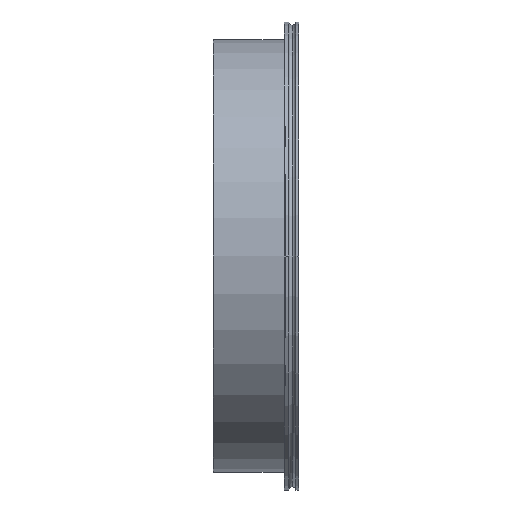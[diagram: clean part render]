
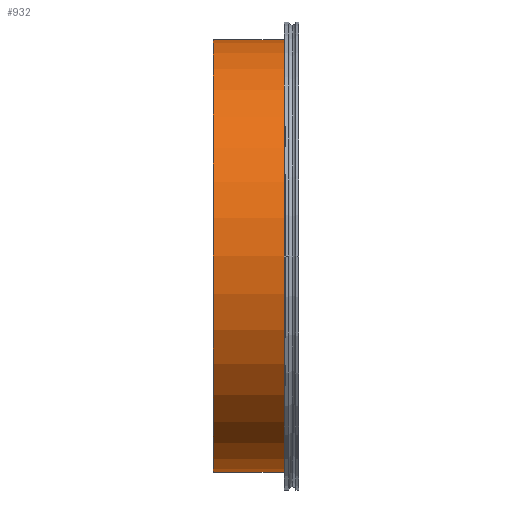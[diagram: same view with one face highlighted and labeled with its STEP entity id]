
A CAD part, front view. The second image highlights one B-rep face of the part: STEP entity #932.
In plain terms, the highlighted cylindrical face has radius 254 mm (diameter 508 mm), a partial arc.
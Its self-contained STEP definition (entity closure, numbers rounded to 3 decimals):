
#786=CARTESIAN_POINT('',(-83.,0.,-254.));
#787=VERTEX_POINT('',#786);
#788=CARTESIAN_POINT('',(8.5,0.,-254.));
#789=VERTEX_POINT('',#788);
#790=CARTESIAN_POINT('',(-83.,0.,-254.));
#791=DIRECTION('',(1.0,0.0,0.0));
#792=VECTOR('',#791,91.5);
#793=LINE('',#790,#792);
#794=EDGE_CURVE('',#787,#789,#793,.T.);
#796=CARTESIAN_POINT('',(-83.,0.,254.));
#797=VERTEX_POINT('',#796);
#805=CARTESIAN_POINT('',(8.5,0.,254.));
#806=VERTEX_POINT('',#805);
#807=CARTESIAN_POINT('',(8.5,0.,254.));
#808=DIRECTION('',(-1.0,0.0,0.0));
#809=VECTOR('',#808,91.5);
#810=LINE('',#807,#809);
#811=EDGE_CURVE('',#806,#797,#810,.T.);
#909=CARTESIAN_POINT('',(-83.,0.0,0.0));
#910=DIRECTION('',(1.0,0.0,0.0));
#911=DIRECTION('',(0.0,0.0,-1.0));
#912=AXIS2_PLACEMENT_3D('',#909,#910,#911);
#913=CYLINDRICAL_SURFACE('',#912,254.);
#914=ORIENTED_EDGE('',*,*,#794,.T.);
#915=CARTESIAN_POINT('',(8.5,0.0,0.0));
#916=DIRECTION('',(1.0,0.0,0.0));
#917=DIRECTION('',(0.0,0.0,-1.0));
#918=AXIS2_PLACEMENT_3D('',#915,#916,#917);
#919=CIRCLE('',#918,254.);
#920=EDGE_CURVE('',#806,#789,#919,.T.);
#921=ORIENTED_EDGE('',*,*,#920,.F.);
#922=ORIENTED_EDGE('',*,*,#811,.T.);
#923=CARTESIAN_POINT('',(-83.,0.0,0.0));
#924=DIRECTION('',(-1.0,0.0,0.0));
#925=DIRECTION('',(0.0,0.0,-1.0));
#926=AXIS2_PLACEMENT_3D('',#923,#924,#925);
#927=CIRCLE('',#926,254.);
#928=EDGE_CURVE('',#787,#797,#927,.T.);
#929=ORIENTED_EDGE('',*,*,#928,.F.);
#930=EDGE_LOOP('',(#914,#921,#922,#929));
#931=FACE_OUTER_BOUND('',#930,.T.);
#932=ADVANCED_FACE('',(#931),#913,.T.);
